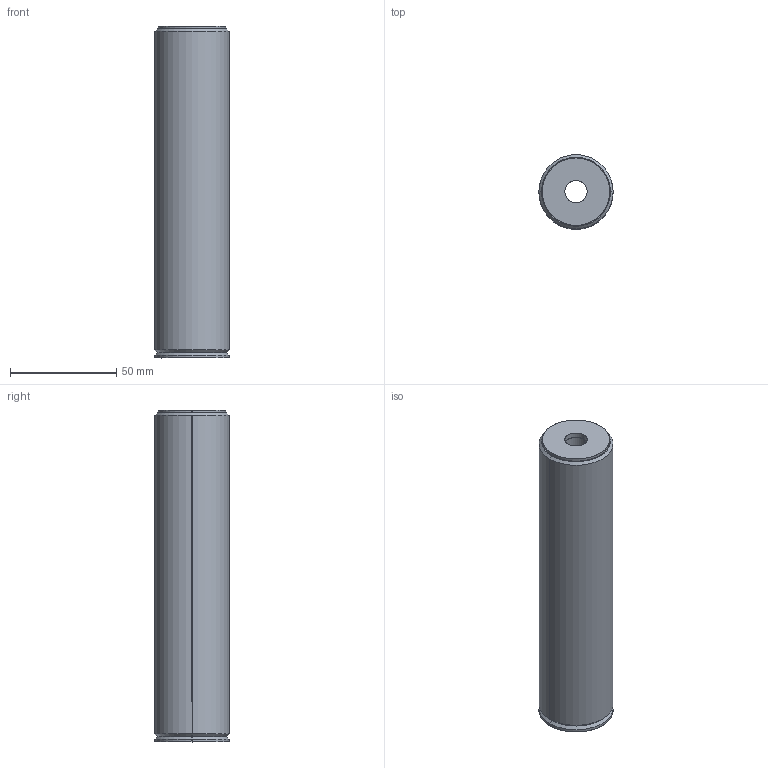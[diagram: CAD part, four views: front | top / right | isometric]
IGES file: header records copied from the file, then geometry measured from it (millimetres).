
Start section: SolidWorks IGES file using analytic representation for surfaces
Global section: file name: C:\Users\Shane\Desktop\Glock22 Suppressor.IGS; native system: SolidWorks 2011; preprocessor: SolidWorks 2011; author: Shane; date: 120428.103722; units: inch
Bounding box: 34.92 x 34.92 x 156.21 mm (x, y, z)
Surface area: 38225.8 mm2 (no closed solid volume)
Topology: 0 solids, 0 shells, 42 faces, 1304 edges, 1304 vertices
Faces by surface type: revolution 24, bspline 18
